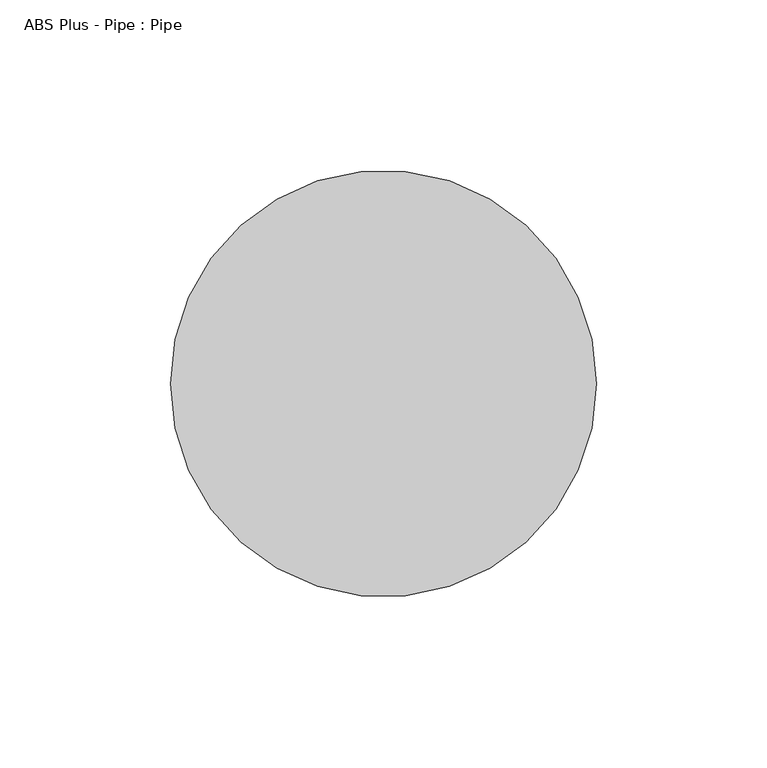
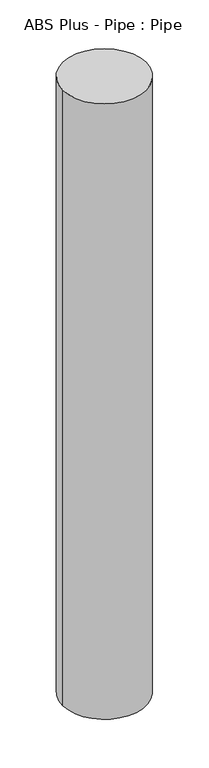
"""IFC4 building model written with IfcOpenShell, lengths in millimetres: proxy geometry, ABS Plus - Pipe : Pipe."""

from ifc_helpers import new_model, si_unit, point, frame, origin, origin_2d, place, context, project, spatial, circle_curve, trimmed, segment, composite_curve, outline, extrude, source, transform, mapped, element, save


def abs_plus_pipe_pipe_c0d7c5e6(model_context):
    return source(origin(), model_context, "Body", "SweptSolid", [
        extrude(outline(composite_curve([segment(trimmed(circle_curve(origin_2d(), 62.5), [point((-62.5, 0.0))], [point((62.5, 0.0))], False, "CARTESIAN"), True, "CONTINUOUS"), segment(trimmed(circle_curve(origin_2d(), 62.5), [point((62.5, 0.0))], [point((-62.5, 0.0))], False, "CARTESIAN"), True, "CONTINUOUS")], self_intersect=False)), frame((0.0, 0.0, 25.0), z_axis=(0.0, 0.0, 1.0), x_axis=(1.0, 0.0, 0.0)), (0.0, 0.0, 1.0), 975.0),
    ])


if __name__ == "__main__":
    model = new_model("IFC4")
    model_context = context("Model", 3, world=origin())
    ifc_project = project(units=[si_unit("LENGTHUNIT", "METRE", prefix="MILLI")], contexts=[model_context])
    site = spatial("IfcSite", under=ifc_project)
    building = spatial("IfcBuilding", under=site)
    placement = place(None, origin())
    abs_plus_pipe_pipe_shape = abs_plus_pipe_pipe_c0d7c5e6(model_context)
    element("IfcBuildingElementProxy", 1, Name="ABS Plus - Pipe : Pipe", ObjectType="ABS Plus - Pipe : Pipe", at=placement, inside=building, context=model_context, shape_type="MappedRepresentation", body=[
        mapped(abs_plus_pipe_pipe_shape, transform((0.0, 0.0, 0.0), x_axis=(1.0, 0.0, 0.0), y_axis=(0.0, 1.0, 0.0), z_axis=(0.0, 0.0, 1.0))),
    ])
    save(model, "model.ifc")
